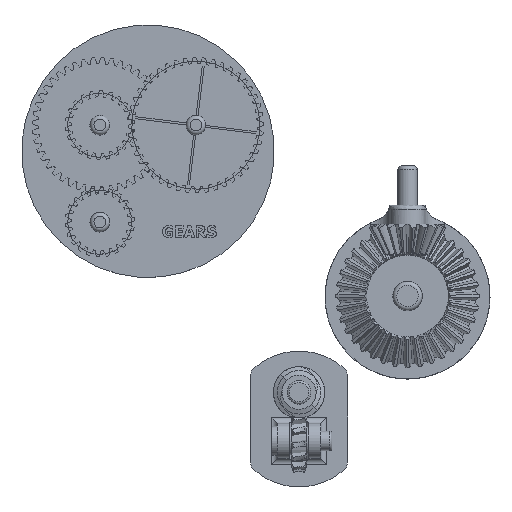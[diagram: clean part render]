
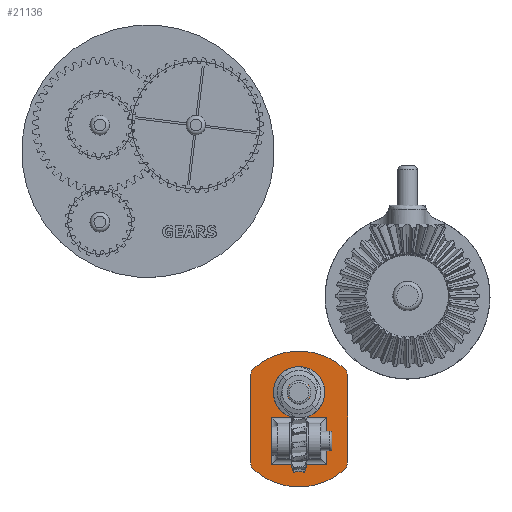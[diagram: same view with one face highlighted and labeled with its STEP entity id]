
A CAD part, top view. The second image highlights one B-rep face of the part: STEP entity #21136.
In plain terms, the highlighted planar face has unit normal (0, 0, 1) as drawn and (0, 0, -1) by its records, which use the part's own axes.
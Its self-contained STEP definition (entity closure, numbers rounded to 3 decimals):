
#2783=LINE('',#43989,#3633);
#2784=LINE('',#43997,#3634);
#2785=LINE('',#44001,#3635);
#2786=LINE('',#44003,#3636);
#2787=LINE('',#44005,#3637);
#2788=LINE('',#44006,#3638);
#2789=LINE('',#44011,#3639);
#2790=LINE('',#44013,#3640);
#2791=LINE('',#44015,#3641);
#2792=LINE('',#44016,#3642);
#3633=VECTOR('',#30393,10.);
#3634=VECTOR('',#30400,10.);
#3635=VECTOR('',#30403,10.);
#3636=VECTOR('',#30404,10.);
#3637=VECTOR('',#30405,10.);
#3638=VECTOR('',#30406,10.);
#3639=VECTOR('',#30409,10.);
#3640=VECTOR('',#30410,10.);
#3641=VECTOR('',#30411,10.);
#3642=VECTOR('',#30412,10.);
#4330=FACE_BOUND('',#6708,.T.);
#4331=FACE_BOUND('',#6709,.T.);
#4332=FACE_BOUND('',#6710,.T.);
#5485=FACE_OUTER_BOUND('',#6707,.T.);
#6707=EDGE_LOOP('',(#19693,#19694,#19695,#19696,#19697,#19698,#19699,#19700));
#6708=EDGE_LOOP('',(#19701,#19702,#19703,#19704));
#6709=EDGE_LOOP('',(#19705));
#6710=EDGE_LOOP('',(#19706,#19707,#19708,#19709));
#8321=CIRCLE('',#24099,5.);
#8322=CIRCLE('',#24101,35.);
#8324=CIRCLE('',#24104,5.);
#8325=CIRCLE('',#24105,35.);
#8326=CIRCLE('',#24106,5.);
#8327=CIRCLE('',#24107,5.);
#8328=CIRCLE('',#24108,6.);
#10330=VERTEX_POINT('',#43976);
#10331=VERTEX_POINT('',#43978);
#10332=VERTEX_POINT('',#43982);
#10334=VERTEX_POINT('',#43988);
#10335=VERTEX_POINT('',#43990);
#10336=VERTEX_POINT('',#43992);
#10337=VERTEX_POINT('',#43994);
#10338=VERTEX_POINT('',#43996);
#10339=VERTEX_POINT('',#43999);
#10340=VERTEX_POINT('',#44000);
#10341=VERTEX_POINT('',#44002);
#10342=VERTEX_POINT('',#44004);
#10343=VERTEX_POINT('',#44007);
#10344=VERTEX_POINT('',#44009);
#10345=VERTEX_POINT('',#44010);
#10346=VERTEX_POINT('',#44012);
#10347=VERTEX_POINT('',#44014);
#13461=EDGE_CURVE('',#10330,#10331,#8321,.T.);
#13463=EDGE_CURVE('',#10331,#10332,#8322,.T.);
#13466=EDGE_CURVE('',#10334,#10330,#2783,.T.);
#13467=EDGE_CURVE('',#10335,#10334,#8324,.T.);
#13468=EDGE_CURVE('',#10336,#10335,#8325,.T.);
#13469=EDGE_CURVE('',#10337,#10336,#8326,.T.);
#13470=EDGE_CURVE('',#10338,#10337,#2784,.T.);
#13471=EDGE_CURVE('',#10332,#10338,#8327,.T.);
#13472=EDGE_CURVE('',#10339,#10340,#2785,.T.);
#13473=EDGE_CURVE('',#10341,#10339,#2786,.T.);
#13474=EDGE_CURVE('',#10342,#10341,#2787,.T.);
#13475=EDGE_CURVE('',#10340,#10342,#2788,.T.);
#13476=EDGE_CURVE('',#10343,#10343,#8328,.T.);
#13477=EDGE_CURVE('',#10344,#10345,#2789,.T.);
#13478=EDGE_CURVE('',#10346,#10344,#2790,.T.);
#13479=EDGE_CURVE('',#10347,#10346,#2791,.T.);
#13480=EDGE_CURVE('',#10345,#10347,#2792,.T.);
#19693=ORIENTED_EDGE('',*,*,#13461,.F.);
#19694=ORIENTED_EDGE('',*,*,#13466,.F.);
#19695=ORIENTED_EDGE('',*,*,#13467,.F.);
#19696=ORIENTED_EDGE('',*,*,#13468,.F.);
#19697=ORIENTED_EDGE('',*,*,#13469,.F.);
#19698=ORIENTED_EDGE('',*,*,#13470,.F.);
#19699=ORIENTED_EDGE('',*,*,#13471,.F.);
#19700=ORIENTED_EDGE('',*,*,#13463,.F.);
#19701=ORIENTED_EDGE('',*,*,#13472,.F.);
#19702=ORIENTED_EDGE('',*,*,#13473,.F.);
#19703=ORIENTED_EDGE('',*,*,#13474,.F.);
#19704=ORIENTED_EDGE('',*,*,#13475,.F.);
#19705=ORIENTED_EDGE('',*,*,#13476,.T.);
#19706=ORIENTED_EDGE('',*,*,#13477,.F.);
#19707=ORIENTED_EDGE('',*,*,#13478,.F.);
#19708=ORIENTED_EDGE('',*,*,#13479,.F.);
#19709=ORIENTED_EDGE('',*,*,#13480,.F.);
#19973=PLANE('',#24103);
#21136=ADVANCED_FACE('',(#5485,#4330,#4331,#4332),#19973,.F.);
#24099=AXIS2_PLACEMENT_3D('',#43979,#30381,#30382);
#24101=AXIS2_PLACEMENT_3D('',#43983,#30386,#30387);
#24103=AXIS2_PLACEMENT_3D('',#43987,#30391,#30392);
#24104=AXIS2_PLACEMENT_3D('',#43991,#30394,#30395);
#24105=AXIS2_PLACEMENT_3D('',#43993,#30396,#30397);
#24106=AXIS2_PLACEMENT_3D('',#43995,#30398,#30399);
#24107=AXIS2_PLACEMENT_3D('',#43998,#30401,#30402);
#24108=AXIS2_PLACEMENT_3D('',#44008,#30407,#30408);
#30381=DIRECTION('center_axis',(0.,0.,1.));
#30382=DIRECTION('ref_axis',(-0.408,0.913,0.));
#30386=DIRECTION('center_axis',(0.,0.,1.));
#30387=DIRECTION('ref_axis',(1.,0.,0.));
#30391=DIRECTION('center_axis',(0.,0.,1.));
#30392=DIRECTION('ref_axis',(1.,0.,0.));
#30393=DIRECTION('',(-1.,0.,0.));
#30394=DIRECTION('center_axis',(0.,0.,1.));
#30395=DIRECTION('ref_axis',(0.408,0.913,0.));
#30396=DIRECTION('center_axis',(0.,0.,1.));
#30397=DIRECTION('ref_axis',(1.,0.,0.));
#30398=DIRECTION('center_axis',(0.,0.,1.));
#30399=DIRECTION('ref_axis',(0.408,-0.913,0.));
#30400=DIRECTION('',(1.,0.,0.));
#30401=DIRECTION('center_axis',(0.,0.,1.));
#30402=DIRECTION('ref_axis',(-0.408,-0.913,0.));
#30403=DIRECTION('',(0.,1.,0.));
#30404=DIRECTION('',(-1.,0.,0.));
#30405=DIRECTION('',(0.,-1.,0.));
#30406=DIRECTION('',(1.,0.,0.));
#30407=DIRECTION('center_axis',(0.,0.,1.));
#30408=DIRECTION('ref_axis',(-1.,0.,0.));
#30409=DIRECTION('',(0.,-1.,0.));
#30410=DIRECTION('',(1.,0.,0.));
#30411=DIRECTION('',(0.,1.,0.));
#30412=DIRECTION('',(-1.,0.,0.));
#43976=CARTESIAN_POINT('',(-36.061,25.,0.));
#43978=CARTESIAN_POINT('',(-39.788,23.333,0.));
#43979=CARTESIAN_POINT('Origin',(-36.061,20.,0.));
#43982=CARTESIAN_POINT('',(-39.788,-23.333,0.));
#43983=CARTESIAN_POINT('Origin',(-13.701,0.,0.));
#43987=CARTESIAN_POINT('Origin',(-13.701,0.,
0.));
#43988=CARTESIAN_POINT('',(8.66,25.,0.));
#43989=CARTESIAN_POINT('',(10.794,25.,0.));
#43990=CARTESIAN_POINT('',(12.387,23.333,0.));
#43991=CARTESIAN_POINT('Origin',(8.66,20.,0.));
#43992=CARTESIAN_POINT('',(12.387,-23.333,0.));
#43993=CARTESIAN_POINT('Origin',(-13.701,0.,0.));
#43994=CARTESIAN_POINT('',(8.66,-25.,0.));
#43995=CARTESIAN_POINT('Origin',(8.66,-20.,0.));
#43996=CARTESIAN_POINT('',(-36.061,-25.,0.));
#43997=CARTESIAN_POINT('',(-38.196,-25.,0.));
#43998=CARTESIAN_POINT('Origin',(-36.061,-20.,0.));
#43999=CARTESIAN_POINT('',(-37.,-14.1,0.));
#44000=CARTESIAN_POINT('',(-37.,-2.1,0.));
#44001=CARTESIAN_POINT('',(-37.,-5.55,0.));
#44002=CARTESIAN_POINT('',(-13.,-14.1,0.));
#44003=CARTESIAN_POINT('',(-14.85,-14.1,0.));
#44004=CARTESIAN_POINT('',(-13.,-2.1,0.));
#44005=CARTESIAN_POINT('',(-13.,-2.55,0.));
#44006=CARTESIAN_POINT('',(-23.85,-2.1,0.));
#44007=CARTESIAN_POINT('',(6.,0.,0.));
#44008=CARTESIAN_POINT('Origin',(0.,0.,0.));
#44009=CARTESIAN_POINT('',(-13.,14.1,0.));
#44010=CARTESIAN_POINT('',(-13.,2.1,0.));
#44011=CARTESIAN_POINT('',(-13.,5.55,0.));
#44012=CARTESIAN_POINT('',(-37.,14.1,0.));
#44013=CARTESIAN_POINT('',(-23.85,14.1,0.));
#44014=CARTESIAN_POINT('',(-37.,2.1,0.));
#44015=CARTESIAN_POINT('',(-37.,2.55,0.));
#44016=CARTESIAN_POINT('',(-14.85,2.1,0.));
